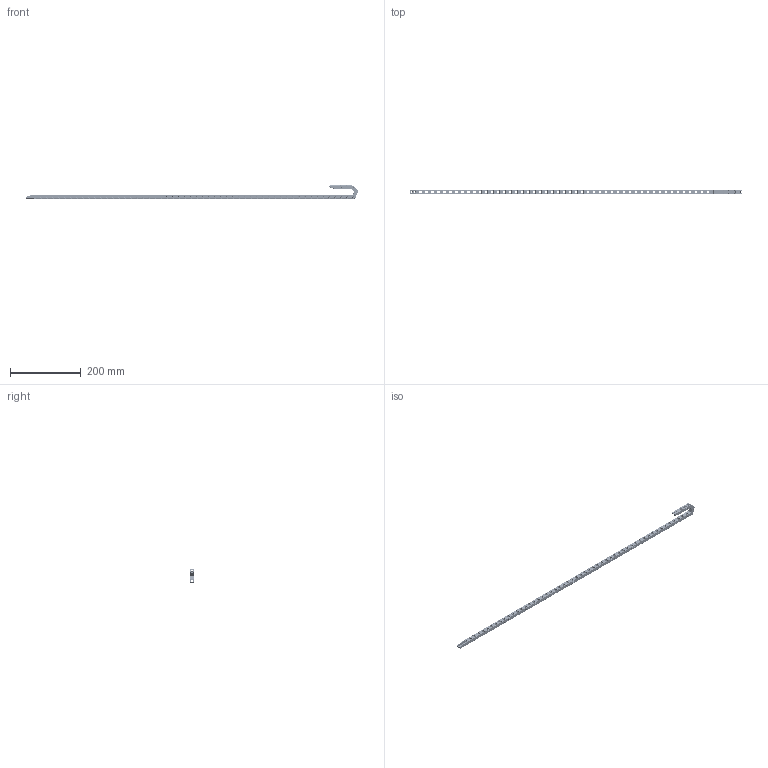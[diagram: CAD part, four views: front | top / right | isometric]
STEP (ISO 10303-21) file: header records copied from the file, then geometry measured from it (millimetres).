
FILE_DESCRIPTION(/* description */ (''),/* implementation_level */ '2;1');
FILE_NAME(/* name */ '7X7R15_stp.prt.stp',/* time_stamp */ '2022-11-11T13:57:01+08:00',/* author */ (''),/* organization */ (''),/* preprocessor_version */ 'ST-DEVELOPER v16',/* originating_system */ 'SIEMENS PLM Software NX 10.0',/* authorisation */ '');
FILE_SCHEMA (('CONFIG_CONTROL_DESIGN'));
Products named in the file (1): 7X7R15_stp
Bounding box: 941.38 x 12.1 x 37.23 mm (x, y, z)
Volume: 57766.5 mm3; surface area: 85930.7 mm2
Topology: 59 solids, 59 shells, 9824 faces, 25357 edges, 16335 vertices
Faces by surface type: plane 5357, cylinder 2503, extrusion 1254, torus 459, bspline 243, cone 8
Full cylindrical faces by diameter (mm): 3.014 x57, 4 x116, 4.071 x116
Entity records: 351986 total; most frequent: CARTESIAN_POINT 115690, ORIENTED_EDGE 49786, DIRECTION 45260, EDGE_CURVE 24893, VECTOR 18324, LINE 17070, VERTEX_POINT 16276, AXIS2_PLACEMENT_3D 13468
